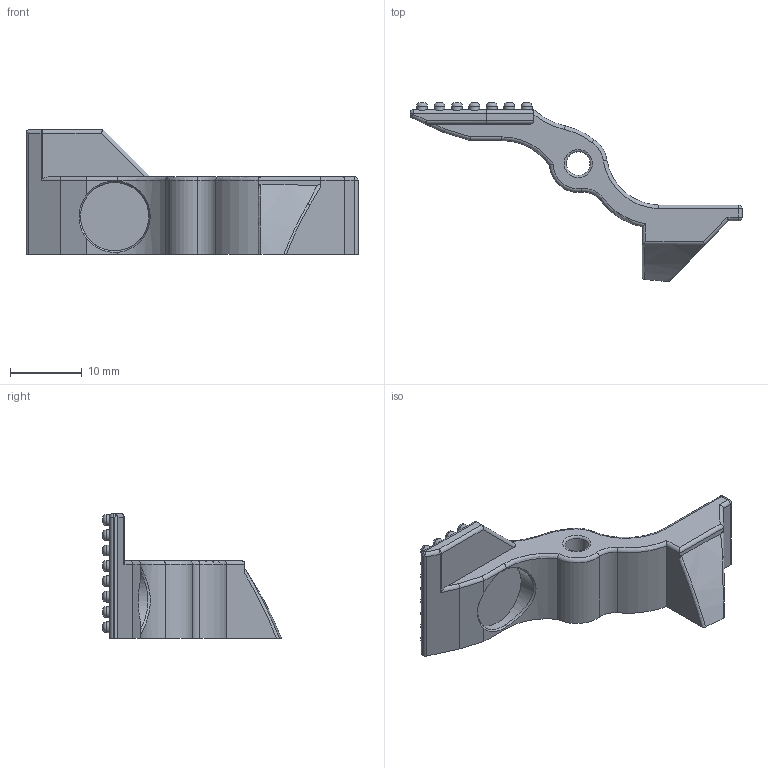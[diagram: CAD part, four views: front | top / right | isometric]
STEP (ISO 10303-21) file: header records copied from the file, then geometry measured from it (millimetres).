
FILE_DESCRIPTION(/* description */ (''),/* implementation_level */ '2;1');
FILE_NAME(/* name */ 'C:/Users/lilys/OneDrive/Desktop/3d printable/SW9/AWCY_HOLSTER_RELEASEV3.step',/* time_stamp */ '2020-09-01T21:05:14-07:00',/* author */ (''),/* organization */ (''),/* preprocessor_version */ 'ST-DEVELOPER v18.1',/* originating_system */ 'Autodesk Translation Framework v9.3.0.1241',/* authorisation */ '');
FILE_SCHEMA (('AUTOMOTIVE_DESIGN { 1 0 10303 214 3 1 1 }'));
Length unit declared in the file: millimetre
Products named in the file (1): AWCY_DSGLOCKS_HOLSTER_V3
Bounding box: 46.16 x 24.87 x 17.36 mm (x, y, z)
Volume: 2673.4 mm3; surface area: 2197.6 mm2
Topology: 1 solids, 1 shells, 224 faces, 496 edges, 318 vertices
Faces by surface type: cylinder 82, plane 69, bspline 57, torus 10, sphere 4, cone 2
Full cylindrical faces by diameter (mm): 1.5 x50, 3.3 x1, 9.5 x1
Entity records: 7867 total; most frequent: CARTESIAN_POINT 2822, DIRECTION 1136, ORIENTED_EDGE 990, AXIS2_PLACEMENT_3D 501, EDGE_CURVE 495, VERTEX_POINT 318, CIRCLE 312, EDGE_LOOP 271
